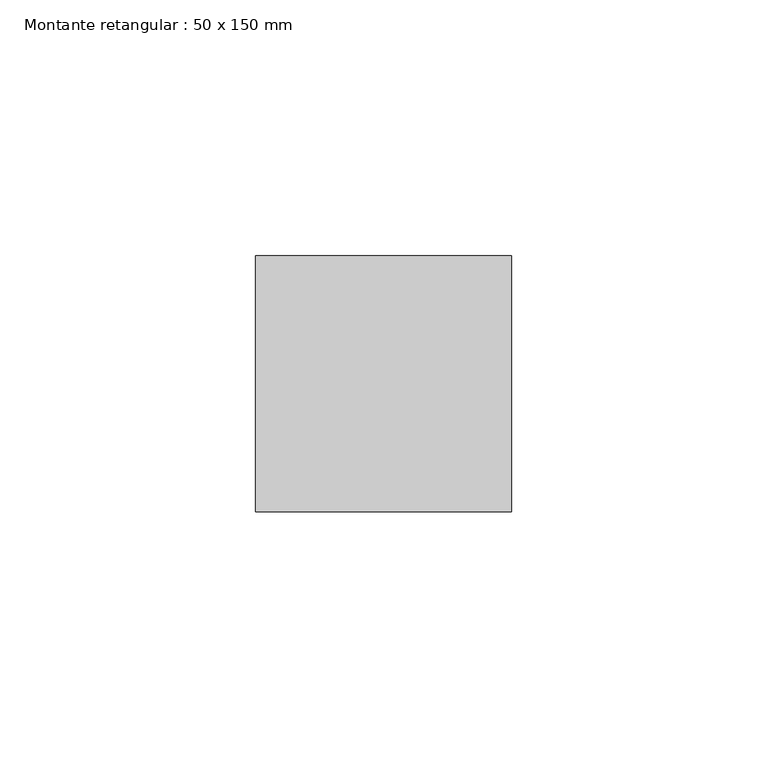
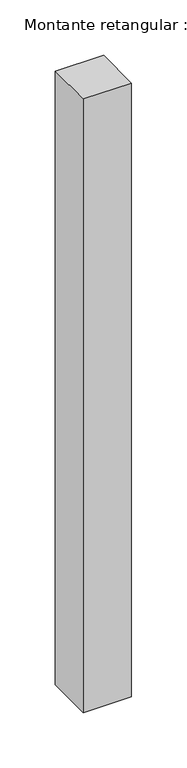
"""IFC4 building model written with IfcOpenShell, lengths in millimetres: member geometry, Montante retangular : 50 x 150 mm."""

from ifc_helpers import new_model, si_unit, frame, origin, place, context, project, spatial, polyline, outline, extrude, source, transform, mapped, element, save


def montante_retangular_50_x_150_mm_0eb01ba9(model_context):
    return source(origin(), model_context, "Body", "SweptSolid", [
        extrude(outline(polyline([(25.0, 25.0), (25.0, -25.0), (-25.0, -25.0), (-25.0, 25.0), (25.0, 25.0)])), frame((0.0, 0.0, -675.0), z_axis=(0.0, 0.0, 1.0), x_axis=(1.0, 0.0, 0.0)), (0.0, 0.0, 1.0), 675.0),
    ])


if __name__ == "__main__":
    model = new_model("IFC4")
    model_context = context("Model", 3, world=origin())
    ifc_project = project(units=[si_unit("LENGTHUNIT", "METRE", prefix="MILLI")], contexts=[model_context])
    site = spatial("IfcSite", under=ifc_project)
    building = spatial("IfcBuilding", under=site)
    placement = place(None, origin())
    montante_retangular_50_x_150_mm_shape = montante_retangular_50_x_150_mm_0eb01ba9(model_context)
    element("IfcMember", 1, ObjectType="Montante retangular : 50 x 150 mm", at=placement, inside=building, context=model_context, shape_type="MappedRepresentation", body=[
        mapped(montante_retangular_50_x_150_mm_shape, transform((0.0, 0.0, 0.0), x_axis=(1.0, 0.0, 0.0), y_axis=(0.0, 1.0, 0.0), z_axis=(0.0, 0.0, 1.0))),
    ])
    save(model, "model.ifc")
